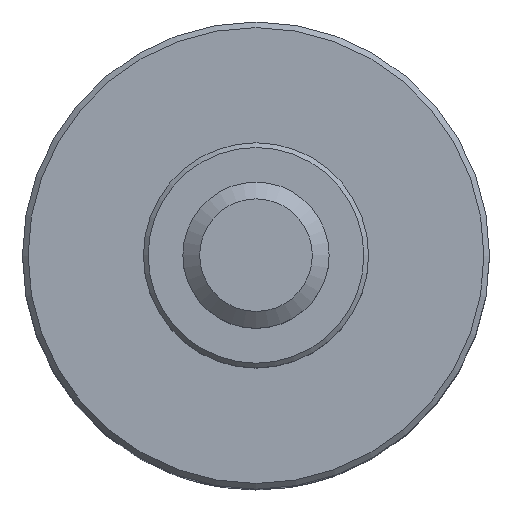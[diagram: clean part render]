
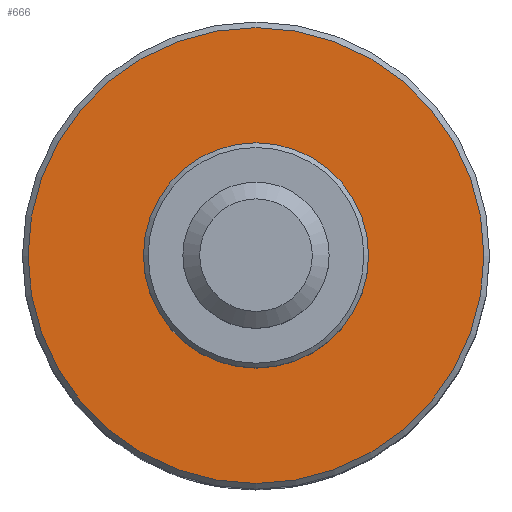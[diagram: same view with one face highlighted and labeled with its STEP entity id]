
A CAD part, top view. The second image highlights one B-rep face of the part: STEP entity #666.
In plain terms, the highlighted planar face has unit normal (0, 0, 1).
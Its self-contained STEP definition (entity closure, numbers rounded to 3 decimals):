
#608=FACE_BOUND('',#751,.T.);
#609=FACE_BOUND('',#752,.T.);
#666=ADVANCED_FACE('',(#608,#609),#697,.T.);
#697=PLANE('',#1685);
#751=EDGE_LOOP('',(#839));
#752=EDGE_LOOP('',(#840));
#839=ORIENTED_EDGE('',*,*,#1430,.T.);
#840=ORIENTED_EDGE('',*,*,#1428,.F.);
#1225=VERTEX_POINT('',#1946);
#1227=VERTEX_POINT('',#1952);
#1428=EDGE_CURVE('',#1225,#1225,#1631,.T.);
#1430=EDGE_CURVE('',#1227,#1227,#1633,.T.);
#1631=CIRCLE('',#1680,6.);
#1633=CIRCLE('',#1684,12.15);
#1680=AXIS2_PLACEMENT_3D('',#1945,#1797,#1798);
#1684=AXIS2_PLACEMENT_3D('',#1951,#1805,#1806);
#1685=AXIS2_PLACEMENT_3D('',#1953,#1807,#1808);
#1797=DIRECTION('',(0.,0.,1.));
#1798=DIRECTION('',(-0.866,0.5,0.));
#1805=DIRECTION('',(0.,0.,1.));
#1806=DIRECTION('',(-0.866,0.5,0.));
#1807=DIRECTION('',(0.,0.,1.));
#1808=DIRECTION('',(-0.866,0.5,0.));
#1945=CARTESIAN_POINT('',(0.,0.,-7.));
#1946=CARTESIAN_POINT('',(-5.196,3.,-7.));
#1951=CARTESIAN_POINT('',(0.,0.,-7.));
#1952=CARTESIAN_POINT('',(-10.522,6.075,-7.));
#1953=CARTESIAN_POINT('',(0.,0.,-7.));
